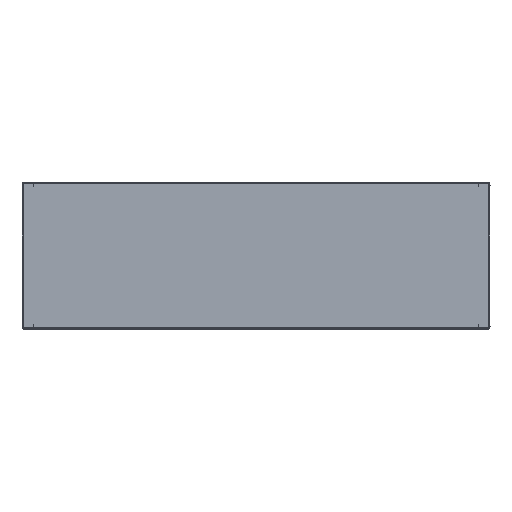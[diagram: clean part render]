
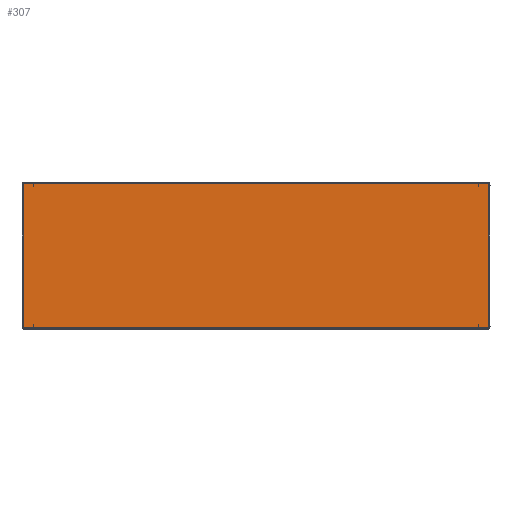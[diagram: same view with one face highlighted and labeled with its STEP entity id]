
A CAD part, top view. The second image highlights one B-rep face of the part: STEP entity #307.
In plain terms, the highlighted planar face has unit normal (0, 0, 1).
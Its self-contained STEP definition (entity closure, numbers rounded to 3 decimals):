
#30=PLANE('',#1321);
#307=ADVANCED_FACE('',(#394),#30,.T.);
#394=FACE_OUTER_BOUND('',#481,.T.);
#481=EDGE_LOOP('',(#732,#733,#734,#735));
#732=ORIENTED_EDGE('',*,*,#936,.T.);
#733=ORIENTED_EDGE('',*,*,#933,.T.);
#734=ORIENTED_EDGE('',*,*,#934,.T.);
#735=ORIENTED_EDGE('',*,*,#935,.T.);
#933=EDGE_CURVE('',#1209,#1210,#1041,.T.);
#934=EDGE_CURVE('',#1210,#1211,#1042,.T.);
#935=EDGE_CURVE('',#1211,#1212,#1043,.T.);
#936=EDGE_CURVE('',#1212,#1209,#1044,.T.);
#1041=B_SPLINE_CURVE_WITH_KNOTS('',1,(#4578,#4579),.UNSPECIFIED.,.F.,.F.,
(2,2),(2.,798.),.UNSPECIFIED.);
#1042=B_SPLINE_CURVE_WITH_KNOTS('',1,(#4580,#4581),.UNSPECIFIED.,.F.,.F.,
(2,2),(2.,243.),.UNSPECIFIED.);
#1043=B_SPLINE_CURVE_WITH_KNOTS('',1,(#4582,#4583),.UNSPECIFIED.,.F.,.F.,
(2,2),(2.,798.),.UNSPECIFIED.);
#1044=B_SPLINE_CURVE_WITH_KNOTS('',1,(#4584,#4585),.UNSPECIFIED.,.F.,.F.,
(2,2),(-297.551,-2.449),.UNSPECIFIED.);
#1209=VERTEX_POINT('',#4530);
#1210=VERTEX_POINT('',#4531);
#1211=VERTEX_POINT('',#4532);
#1212=VERTEX_POINT('',#4533);
#1321=AXIS2_PLACEMENT_3D('',#4509,#1349,$);
#1349=DIRECTION('',(0.,0.,1.));
#4509=CARTESIAN_POINT('',(-5.,0.,682.));
#4530=CARTESIAN_POINT('',(-3.,2.041,682.));
#4531=CARTESIAN_POINT('',(793.,2.041,682.));
#4532=CARTESIAN_POINT('',(793.,247.959,682.));
#4533=CARTESIAN_POINT('',(-3.,247.959,682.));
#4578=CARTESIAN_POINT('',(-3.,2.041,682.));
#4579=CARTESIAN_POINT('',(793.,2.041,682.));
#4580=CARTESIAN_POINT('',(793.,2.041,682.));
#4581=CARTESIAN_POINT('',(793.,247.959,682.));
#4582=CARTESIAN_POINT('',(793.,247.959,682.));
#4583=CARTESIAN_POINT('',(-3.,247.959,682.));
#4584=CARTESIAN_POINT('',(-3.,247.959,682.));
#4585=CARTESIAN_POINT('',(-3.,2.041,682.));
